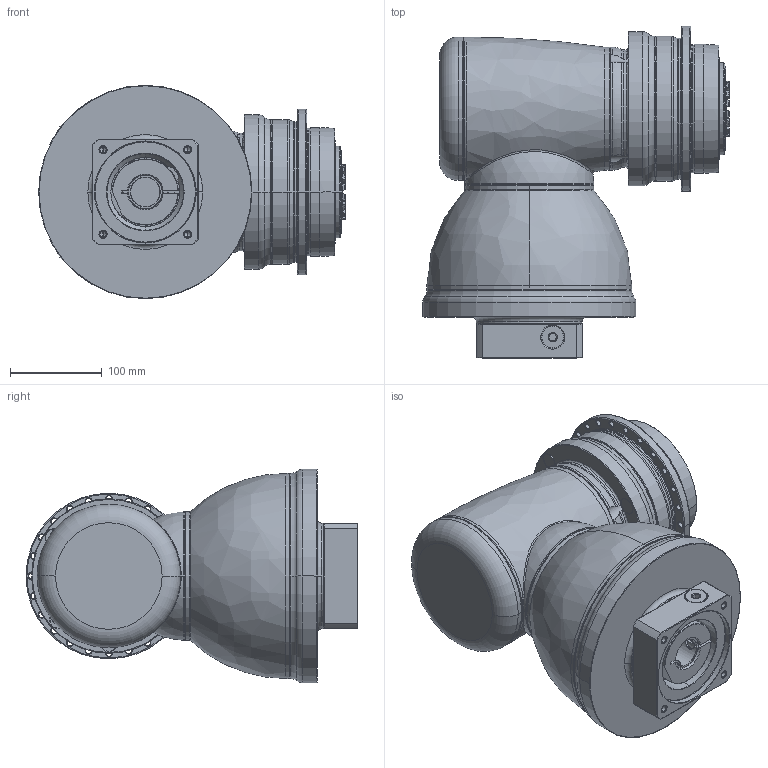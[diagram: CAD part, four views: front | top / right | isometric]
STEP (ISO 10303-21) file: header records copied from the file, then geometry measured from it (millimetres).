
FILE_DESCRIPTION((''),'2;1');
FILE_NAME('APCK140_2ST_SBG_32-P0409710201_ASM','2018-05-18T',('d01226'),(''),'PRO/ENGINEER BY PARAMETRIC TECHNOLOGY CORPORATION, 2008410','PRO/ENGINEER BY PARAMETRIC TECHNOLOGY CORPORATION, 2008410','');
FILE_SCHEMA(('CONFIG_CONTROL_DESIGN'));
Length unit declared in the file: millimetre
Products named in the file (13): P0278501003; P03595D0103; P1211500001; P1802510011; P1018600002; P1365600001; P1007601001; P1318610001; P0409710201; P0503700010; P0912650001; 21711418017; APCK140_2ST_SBG_32-P0409710201_ASM
Assembly tree (12 placements, depth 2):
  APCK140_2ST_SBG_32-P0409710201_ASM
    P0278501003
    P03595D0103
    P1211500001
    P1802510011
    P1018600002
    P1365600001
    P1007601001
    P1318610001
    P0409710201
    P0503700010
    P0912650001
    21711418017
Bounding box: 333.6 x 361 x 232 mm (x, y, z)
Volume: 10727352.4 mm3; surface area: 774752.7 mm2
Topology: 13 solids, 23 shells, 795 faces, 1884 edges, 1158 vertices
Faces by surface type: cylinder 262, cone 229, plane 145, torus 133, bspline 24, sphere 2
Entity records: 30145 total; most frequent: CARTESIAN_POINT 11239, DIRECTION 4235, ORIENTED_EDGE 3698, EDGE_CURVE 1870, AXIS2_PLACEMENT_3D 1852, VERTEX_POINT 1158, CIRCLE 1046, EDGE_LOOP 916
